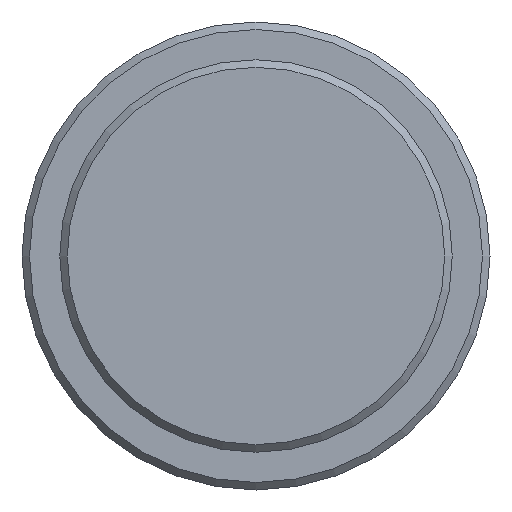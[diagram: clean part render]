
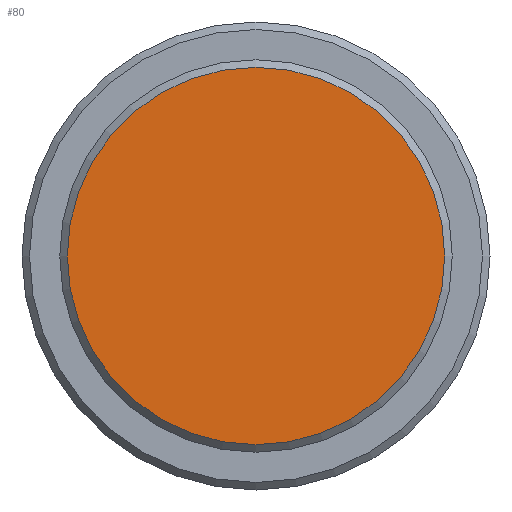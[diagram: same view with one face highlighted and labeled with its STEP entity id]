
A CAD part, front view. The second image highlights one B-rep face of the part: STEP entity #80.
In plain terms, the highlighted planar face has unit normal (0, -1, 0).
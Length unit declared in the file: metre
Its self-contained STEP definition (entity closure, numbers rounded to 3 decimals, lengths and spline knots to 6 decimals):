
#80 = ADVANCED_FACE( '', ( #113 ), #114, .T. );
#113 = FACE_OUTER_BOUND( '', #189, .T. );
#114 = PLANE( '', #190 );
#189 = EDGE_LOOP( '', ( #271 ) );
#190 = AXIS2_PLACEMENT_3D( '', #272, #273, #274 );
#271 = ORIENTED_EDGE( '', *, *, #389, .T. );
#272 = CARTESIAN_POINT( '', ( 0., -0.009, 0. ) );
#273 = DIRECTION( '', ( 0., -1., 0. ) );
#274 = DIRECTION( '', ( 0., 0., -1. ) );
#389 = EDGE_CURVE( '', #418, #418, #419, .T. );
#418 = VERTEX_POINT( '', #468 );
#419 = CIRCLE( '', #469, 0.0125 );
#468 = CARTESIAN_POINT( '', ( 0., -0.009, -0.0125 ) );
#469 = AXIS2_PLACEMENT_3D( '', #522, #523, #524 );
#522 = CARTESIAN_POINT( '', ( 0., -0.009, 0. ) );
#523 = DIRECTION( '', ( 0., -1., 0. ) );
#524 = DIRECTION( '', ( 0., 0., -1. ) );
